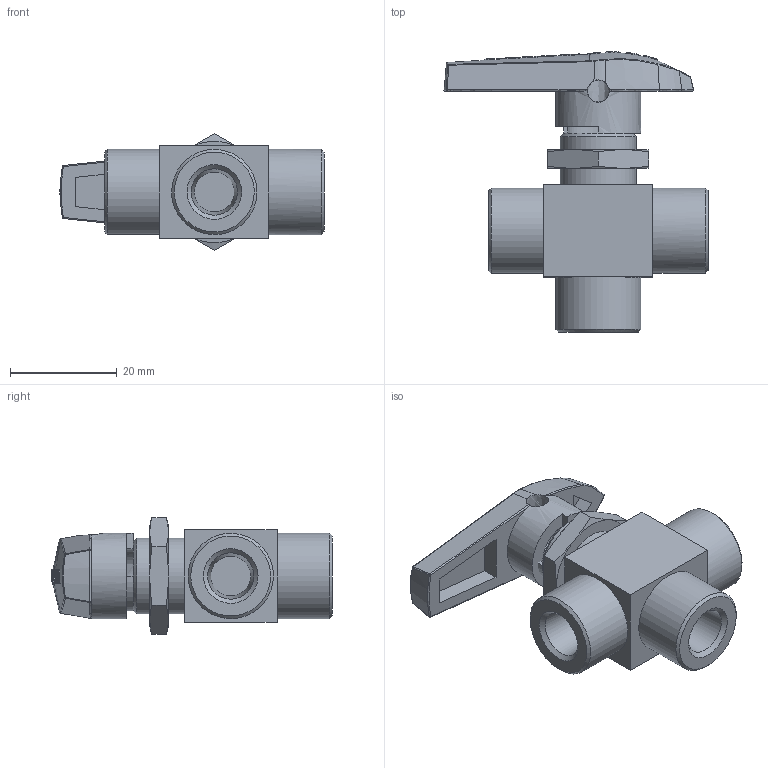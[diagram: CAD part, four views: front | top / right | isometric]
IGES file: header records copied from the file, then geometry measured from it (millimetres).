
Global section: file name: SBV120H13-F2N; native system: Autodesk Inventor 2018; preprocessor: unknown; author: 이승민,,11,0; organization: 20161214.011922; date: 20200303.185626; units: millimetre
Bounding box: 49.57 x 52.65 x 21.94 mm (x, y, z)
Volume: 16031.2 mm3; surface area: 8144.1 mm2
Topology: 3 solids, 3 shells, 285 faces, 753 edges, 497 vertices
Faces by surface type: bspline 285
